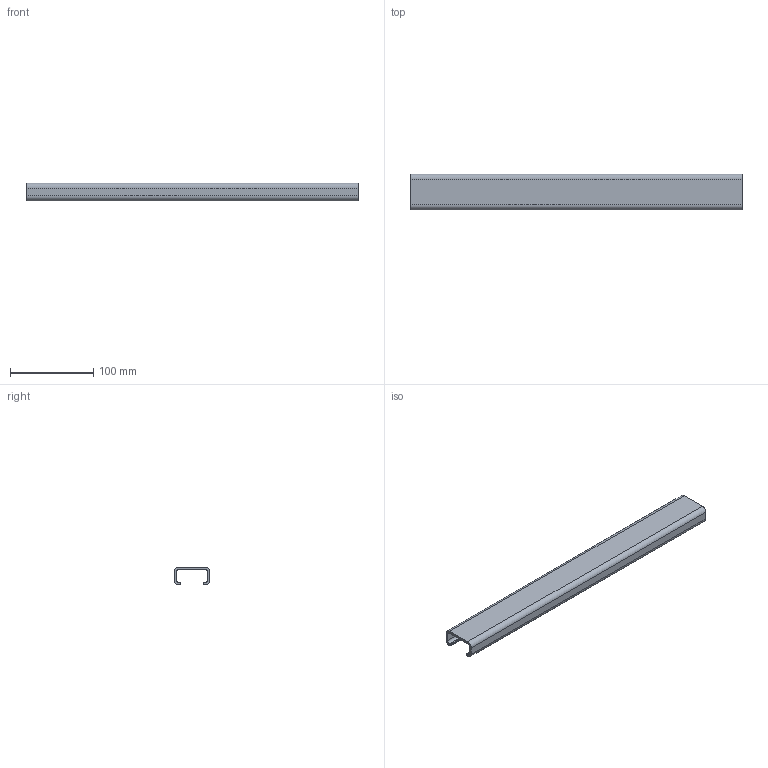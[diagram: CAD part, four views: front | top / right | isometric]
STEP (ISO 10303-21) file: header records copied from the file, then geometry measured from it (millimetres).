
FILE_DESCRIPTION(('CATIA V5 STEP Exchange'),'2;1');
FILE_NAME('Y:\Mr RICHARD\36329 RFQ N° 1041888 IBEV-2017-175 - USIN_LOT8 - Outillages de Manutention VOLGAERO\DOC-8017504426\36329-REP-02.stp','2018-03-23T12:04:48+00:00',('none'),('none'),'CATIA Version 5 Release 19 SP 9 (IN-10)','CATIA V5 STEP AP203','none');
FILE_SCHEMA(('CONFIG_CONTROL_DESIGN'));
Length unit declared in the file: millimetre
Products named in the file (1): 36329-REP-02
Bounding box: 400 x 43 x 21.5 mm (x, y, z)
Volume: 98042.5 mm3; surface area: 68023 mm2
Topology: 1 solids, 1 shells, 22 faces, 60 edges, 40 vertices
Faces by surface type: plane 12, cylinder 10
Entity records: 721 total; most frequent: CARTESIAN_POINT 122, ORIENTED_EDGE 120, DIRECTION 102, EDGE_CURVE 60, AXIS2_PLACEMENT_3D 42, VECTOR 40, LINE 40, VERTEX_POINT 40
